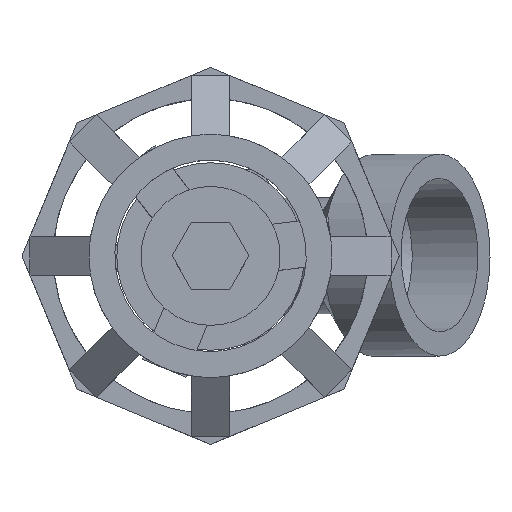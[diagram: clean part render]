
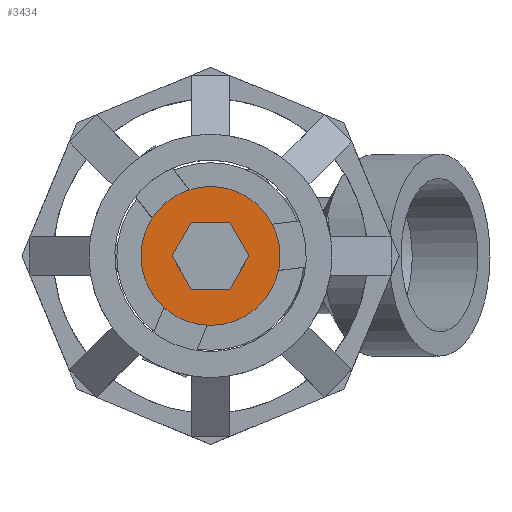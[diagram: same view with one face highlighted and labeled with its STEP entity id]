
A CAD part, top view. The second image highlights one B-rep face of the part: STEP entity #3434.
In plain terms, the highlighted planar face has unit normal (0, 0, 1).
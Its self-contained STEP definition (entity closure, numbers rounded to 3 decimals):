
#3330 = CYLINDRICAL_SURFACE('',#3331,0.358);
#3331 = AXIS2_PLACEMENT_3D('',#3332,#3333,#3334);
#3332 = CARTESIAN_POINT('',(0.,0.,
    3.375));
#3333 = DIRECTION('',(0.,0.,1.));
#3334 = DIRECTION('',(-1.,0.,0.));
#3380 = EDGE_CURVE('',#3381,#3381,#3383,.T.);
#3381 = VERTEX_POINT('',#3382);
#3382 = CARTESIAN_POINT('',(-0.358,0.,3.415));
#3383 = SURFACE_CURVE('',#3384,(#3389,#3396),.PCURVE_S1.);
#3384 = CIRCLE('',#3385,0.358);
#3385 = AXIS2_PLACEMENT_3D('',#3386,#3387,#3388);
#3386 = CARTESIAN_POINT('',(0.,0.,
    3.415));
#3387 = DIRECTION('',(0.,0.,-1.));
#3388 = DIRECTION('',(-1.,0.,0.));
#3389 = PCURVE('',#3330,#3390);
#3390 = DEFINITIONAL_REPRESENTATION('',(#3391),#3395);
#3391 = LINE('',#3392,#3393);
#3392 = CARTESIAN_POINT('',(6.283,0.04));
#3393 = VECTOR('',#3394,1.);
#3394 = DIRECTION('',(-1.,0.));
#3395 = ( GEOMETRIC_REPRESENTATION_CONTEXT(2) 
PARAMETRIC_REPRESENTATION_CONTEXT() REPRESENTATION_CONTEXT('2D SPACE',''
  ) );
#3396 = PCURVE('',#3397,#3402);
#3397 = PLANE('',#3398);
#3398 = AXIS2_PLACEMENT_3D('',#3399,#3400,#3401);
#3399 = CARTESIAN_POINT('',(0.,0.,
    3.415));
#3400 = DIRECTION('',(0.,0.,1.));
#3401 = DIRECTION('',(-1.,0.,0.));
#3402 = DEFINITIONAL_REPRESENTATION('',(#3403),#3411);
#3403 = ( BOUNDED_CURVE() B_SPLINE_CURVE(2,(#3404,#3405,#3406,#3407,
#3408,#3409,#3410),.UNSPECIFIED.,.T.,.F.) B_SPLINE_CURVE_WITH_KNOTS((1,2
    ,2,2,2,1),(-2.094,0.,2.094,4.189,
6.283,8.378),.UNSPECIFIED.) CURVE() 
GEOMETRIC_REPRESENTATION_ITEM() RATIONAL_B_SPLINE_CURVE((1.,0.5,1.,0.5,
1.,0.5,1.)) REPRESENTATION_ITEM('') );
#3404 = CARTESIAN_POINT('',(0.358,0.));
#3405 = CARTESIAN_POINT('',(0.358,-0.619));
#3406 = CARTESIAN_POINT('',(-0.179,-0.31));
#3407 = CARTESIAN_POINT('',(-0.715,0.));
#3408 = CARTESIAN_POINT('',(-0.179,0.31));
#3409 = CARTESIAN_POINT('',(0.358,0.619));
#3410 = CARTESIAN_POINT('',(0.358,0.));
#3411 = ( GEOMETRIC_REPRESENTATION_CONTEXT(2) 
PARAMETRIC_REPRESENTATION_CONTEXT() REPRESENTATION_CONTEXT('2D SPACE',''
  ) );
#3434 = ADVANCED_FACE('',(#3435),#3397,.T.);
#3435 = FACE_BOUND('',#3436,.T.);
#3436 = EDGE_LOOP('',(#3437));
#3437 = ORIENTED_EDGE('',*,*,#3380,.F.);
